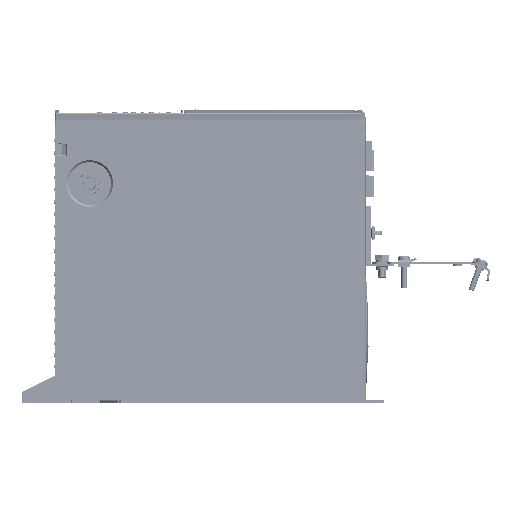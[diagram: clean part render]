
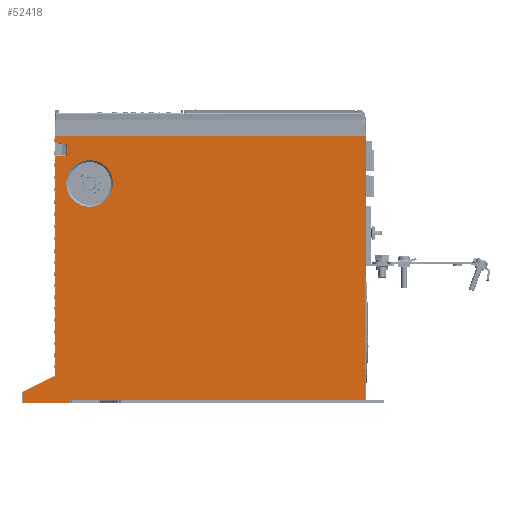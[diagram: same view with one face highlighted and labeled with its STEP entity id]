
A CAD part, left-side view. The second image highlights one B-rep face of the part: STEP entity #52418.
In plain terms, the highlighted planar face has unit normal (-1, 0, 0).
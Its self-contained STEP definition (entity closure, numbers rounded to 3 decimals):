
#13733=DIRECTION('',(0.,-1.,0.));
#13734=VECTOR('',#13733,33.456);
#13735=CARTESIAN_POINT('',(-62.5,22.5,-188.6));
#13736=LINE('',#13735,#13734);
#19006=DIRECTION('',(0.,0.985,0.174));
#19007=VECTOR('',#19006,8.22);
#19008=CARTESIAN_POINT('',(-62.5,-8.595,-7.241));
#19009=LINE('',#19008,#19007);
#19010=DIRECTION('',(0.,-1.,0.));
#19011=VECTOR('',#19010,217.1);
#19012=CARTESIAN_POINT('',(-62.5,-0.5,-1.67));
#19013=LINE('',#19012,#19011);
#19014=DIRECTION('',(0.,1.,0.));
#19015=VECTOR('',#19014,206.609);
#19016=CARTESIAN_POINT('',(-62.5,-217.6,-187.1));
#19017=LINE('',#19016,#19015);
#19018=CARTESIAN_POINT('',(-62.5,-10.991,-187.1));
#19019=CARTESIAN_POINT('',(-62.5,-10.974,-187.6));
#19020=CARTESIAN_POINT('',(-62.5,-10.974,-188.1));
#19021=CARTESIAN_POINT('',(-62.5,-10.956,-188.6));
#19023=DIRECTION('',(0.,-0.893,0.45));
#19024=VECTOR('',#19023,24.003);
#19025=CARTESIAN_POINT('',(-62.5,22.5,-181.408));
#19026=LINE('',#19025,#19024);
#19027=DIRECTION('',(0.,-0.996,0.087));
#19028=VECTOR('',#19027,1.576);
#19029=CARTESIAN_POINT('',(-62.5,1.07,-170.596));
#19030=LINE('',#19029,#19028);
#19031=CARTESIAN_POINT('',(-62.5,-24.5,-34.8));
#19032=DIRECTION('',(-1.,0.,0.));
#19033=DIRECTION('',(0.,-1.,0.));
#19034=AXIS2_PLACEMENT_3D('',#19031,#19032,#19033);
#19036=CARTESIAN_POINT('',(-62.5,-24.5,-34.8));
#19037=DIRECTION('',(-1.,0.,0.));
#19038=DIRECTION('',(0.,0.,1.));
#19039=AXIS2_PLACEMENT_3D('',#19036,#19037,#19038);
#19041=CARTESIAN_POINT('',(-62.5,-24.5,-34.8));
#19042=DIRECTION('',(-1.,0.,0.));
#19043=DIRECTION('',(0.,1.,0.));
#19044=AXIS2_PLACEMENT_3D('',#19041,#19042,#19043);
#19046=CARTESIAN_POINT('',(-62.5,-24.5,-34.8));
#19047=DIRECTION('',(-1.,0.,0.));
#19048=DIRECTION('',(0.,0.,-1.));
#19049=AXIS2_PLACEMENT_3D('',#19046,#19047,#19048);
#19055=DIRECTION('',(0.,0.,-1.));
#19056=VECTOR('',#19055,154.857);
#19057=CARTESIAN_POINT('',(-62.5,-0.5,-15.602));
#19058=LINE('',#19057,#19056);
#19109=DIRECTION('',(0.,1.,-0.001));
#19110=VECTOR('',#19109,8.095);
#19111=CARTESIAN_POINT('',(-62.5,-8.595,-15.595));
#19112=LINE('',#19111,#19110);
#19121=DIRECTION('',(0.,0.,-1.));
#19122=VECTOR('',#19121,8.354);
#19123=CARTESIAN_POINT('',(-62.5,-8.595,-7.241));
#19124=LINE('',#19123,#19122);
#19229=DIRECTION('',(0.,0.,-1.));
#19230=VECTOR('',#19229,4.144);
#19231=CARTESIAN_POINT('',(-62.5,-0.5,-1.67));
#19232=LINE('',#19231,#19230);
#20274=DIRECTION('',(0.,0.,1.));
#20275=VECTOR('',#20274,185.43);
#20276=CARTESIAN_POINT('',(-62.5,-217.6,-187.1));
#20277=LINE('',#20276,#20275);
#20891=DIRECTION('',(0.,0.,-1.));
#20892=VECTOR('',#20891,7.192);
#20893=CARTESIAN_POINT('',(-62.5,22.5,-181.408));
#20894=LINE('',#20893,#20892);
#36433=CARTESIAN_POINT('',(-62.5,-0.5,-15.602));
#36434=CARTESIAN_POINT('',(-62.5,-0.5,-170.458));
#36435=VERTEX_POINT('',#36433);
#36436=VERTEX_POINT('',#36434);
#36437=CARTESIAN_POINT('',(-62.5,-8.595,-15.595));
#36438=VERTEX_POINT('',#36437);
#36439=CARTESIAN_POINT('',(-62.5,-8.595,-7.241));
#36440=VERTEX_POINT('',#36439);
#36441=CARTESIAN_POINT('',(-62.5,-0.5,-5.814));
#36442=VERTEX_POINT('',#36441);
#36443=CARTESIAN_POINT('',(-62.5,-0.5,-1.67));
#36444=VERTEX_POINT('',#36443);
#36445=CARTESIAN_POINT('',(-62.5,-217.6,-1.67));
#36446=VERTEX_POINT('',#36445);
#36447=CARTESIAN_POINT('',(-62.5,-217.6,-187.1));
#36448=VERTEX_POINT('',#36447);
#36449=CARTESIAN_POINT('',(-62.5,-10.991,-187.1));
#36450=VERTEX_POINT('',#36449);
#36451=VERTEX_POINT('',#19021);
#36452=CARTESIAN_POINT('',(-62.5,22.5,-188.6));
#36453=VERTEX_POINT('',#36452);
#36454=CARTESIAN_POINT('',(-62.5,22.5,-181.408));
#36455=VERTEX_POINT('',#36454);
#36456=CARTESIAN_POINT('',(-62.5,1.07,-170.596));
#36457=VERTEX_POINT('',#36456);
#36458=CARTESIAN_POINT('',(-62.5,-24.5,-18.45));
#36459=CARTESIAN_POINT('',(-62.5,-8.15,-34.8));
#36460=VERTEX_POINT('',#36458);
#36461=VERTEX_POINT('',#36459);
#36462=CARTESIAN_POINT('',(-62.5,-40.85,-34.8));
#36463=VERTEX_POINT('',#36462);
#36464=CARTESIAN_POINT('',(-62.5,-24.5,-51.15));
#36465=VERTEX_POINT('',#36464);
#52377=CARTESIAN_POINT('',(-62.5,0.,-188.6));
#52378=DIRECTION('',(-1.,0.,0.));
#52379=DIRECTION('',(0.,0.,1.));
#52380=AXIS2_PLACEMENT_3D('',#52377,#52378,#52379);
#52381=PLANE('',#52380);
#52383=ORIENTED_EDGE('',*,*,#52382,.F.);
#52385=ORIENTED_EDGE('',*,*,#52384,.F.);
#52387=ORIENTED_EDGE('',*,*,#52386,.F.);
#52389=ORIENTED_EDGE('',*,*,#52388,.T.);
#52391=ORIENTED_EDGE('',*,*,#52390,.F.);
#52393=ORIENTED_EDGE('',*,*,#52392,.T.);
#52395=ORIENTED_EDGE('',*,*,#52394,.F.);
#52396=ORIENTED_EDGE('',*,*,#52286,.T.);
#52398=ORIENTED_EDGE('',*,*,#52397,.T.);
#52399=ORIENTED_EDGE('',*,*,#45630,.F.);
#52401=ORIENTED_EDGE('',*,*,#52400,.F.);
#52403=ORIENTED_EDGE('',*,*,#52402,.T.);
#52405=ORIENTED_EDGE('',*,*,#52404,.T.);
#52406=EDGE_LOOP('',(#52383,#52385,#52387,#52389,#52391,#52393,#52395,#52396,
#52398,#52399,#52401,#52403,#52405));
#52407=FACE_OUTER_BOUND('',#52406,.F.);
#52409=ORIENTED_EDGE('',*,*,#52408,.T.);
#52411=ORIENTED_EDGE('',*,*,#52410,.T.);
#52413=ORIENTED_EDGE('',*,*,#52412,.T.);
#52415=ORIENTED_EDGE('',*,*,#52414,.T.);
#52416=EDGE_LOOP('',(#52409,#52411,#52413,#52415));
#52417=FACE_BOUND('',#52416,.F.);
#19022=B_SPLINE_CURVE_WITH_KNOTS('',3,(#19018,#19019,#19020,#19021),
.UNSPECIFIED.,.F.,.F.,(4,4),(0.,1.),.UNSPECIFIED.);
#19035=CIRCLE('',#19034,16.35);
#19040=CIRCLE('',#19039,16.35);
#19045=CIRCLE('',#19044,16.35);
#19050=CIRCLE('',#19049,16.35);
#45630=EDGE_CURVE('',#36453,#36451,#13736,.T.);
#52286=EDGE_CURVE('',#36448,#36450,#19017,.T.);
#52382=EDGE_CURVE('',#36435,#36436,#19058,.T.);
#52384=EDGE_CURVE('',#36438,#36435,#19112,.T.);
#52386=EDGE_CURVE('',#36440,#36438,#19124,.T.);
#52388=EDGE_CURVE('',#36440,#36442,#19009,.T.);
#52390=EDGE_CURVE('',#36444,#36442,#19232,.T.);
#52392=EDGE_CURVE('',#36444,#36446,#19013,.T.);
#52394=EDGE_CURVE('',#36448,#36446,#20277,.T.);
#52397=EDGE_CURVE('',#36450,#36451,#19022,.T.);
#52400=EDGE_CURVE('',#36455,#36453,#20894,.T.);
#52402=EDGE_CURVE('',#36455,#36457,#19026,.T.);
#52404=EDGE_CURVE('',#36457,#36436,#19030,.T.);
#52408=EDGE_CURVE('',#36463,#36460,#19035,.T.);
#52410=EDGE_CURVE('',#36460,#36461,#19040,.T.);
#52412=EDGE_CURVE('',#36461,#36465,#19045,.T.);
#52414=EDGE_CURVE('',#36465,#36463,#19050,.T.);
#52418=ADVANCED_FACE('',(#52407,#52417),#52381,.T.);
